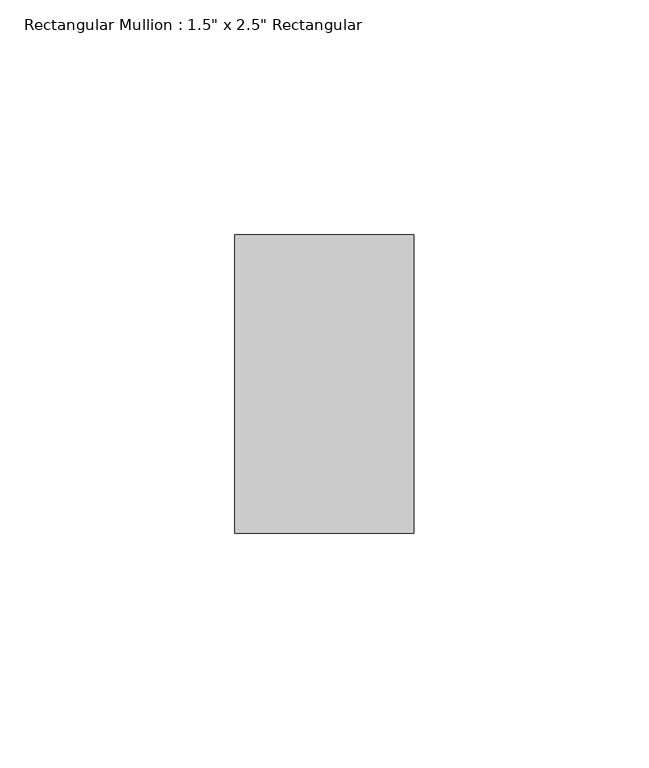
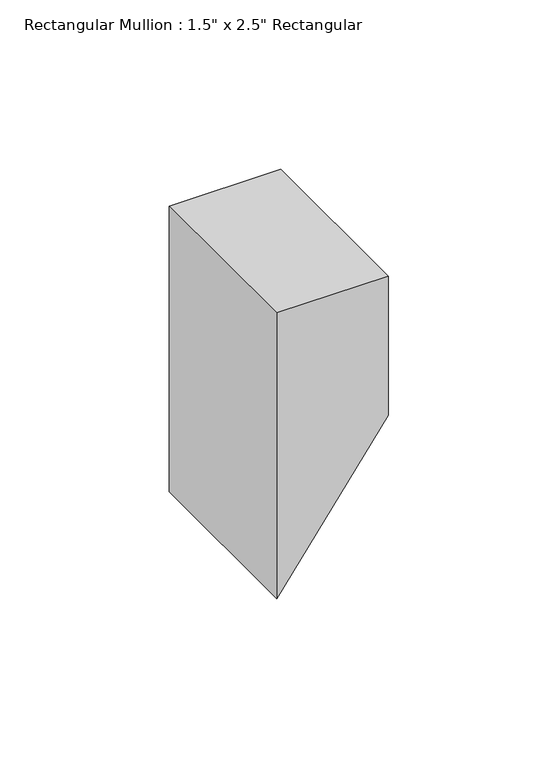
"""IFC4 building model written with IfcOpenShell, lengths in millimetres: member geometry."""

from ifc_helpers import new_model, si_unit, frame, origin, place, context, project, spatial, polyline, outline, extrude, source, transform, mapped, element, save


def member_0f81cabc(model_context):
    return source(origin(), model_context, "Body", "SweptSolid", [
        extrude(outline(polyline([(0.0, 0.0), (0.0, -38.1), (-103.0620841, -38.1), (-50.2011579, 0.0), (0.0, 0.0)])), frame((0.0, -31.75, 0.0), z_axis=(0.0, 1.0, 0.0), x_axis=(0.0, 0.0, 1.0)), (0.0, 0.0, 1.0), 63.5),
    ])


if __name__ == "__main__":
    model = new_model("IFC4")
    model_context = context("Model", 3, world=origin())
    ifc_project = project(units=[si_unit("LENGTHUNIT", "METRE", prefix="MILLI")], contexts=[model_context])
    site = spatial("IfcSite", under=ifc_project)
    building = spatial("IfcBuilding", under=site)
    placement = place(None, origin())
    member_shape = member_0f81cabc(model_context)
    element("IfcMember", 1, ObjectType="Rectangular Mullion : 1.5\" x 2.5\" Rectangular", at=placement, inside=building, context=model_context, shape_type="MappedRepresentation", body=[
        mapped(member_shape, transform((0.0, 0.0, 0.0), x_axis=(1.0, 0.0, 0.0), y_axis=(0.0, 1.0, 0.0), z_axis=(0.0, 0.0, 1.0))),
    ])
    save(model, "model.ifc")
